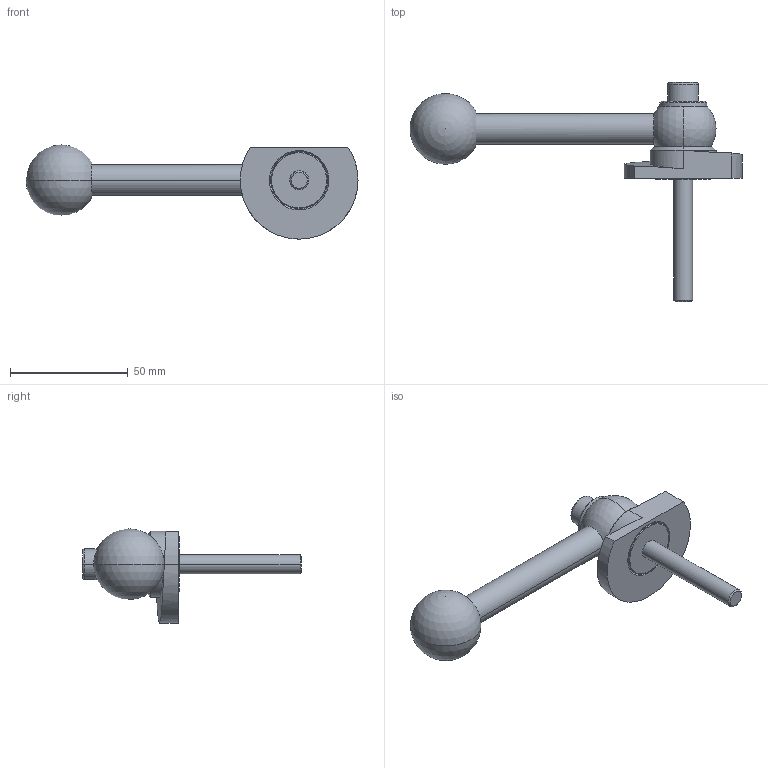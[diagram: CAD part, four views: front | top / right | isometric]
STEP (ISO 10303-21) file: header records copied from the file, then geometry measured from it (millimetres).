
FILE_DESCRIPTION (( 'STEP AP214' ), '1' );
FILE_NAME ('918.1-50-GVS-L-52.step', '2024-05-15T13:01:37', ( '' ), ( '' ), 'SwSTEP 2.0', 'SolidWorks 2022', '' );
FILE_SCHEMA (( 'AUTOMOTIVE_DESIGN' ));
Length unit declared in the file: millimetre
Products named in the file (1): 918.1-50-GVS-L-52
Bounding box: 141 x 93 x 40 mm (x, y, z)
Volume: 53598.6 mm3; surface area: 16651.1 mm2
Topology: 1 solids, 1 shells, 62 faces, 140 edges, 88 vertices
Faces by surface type: plane 20, cylinder 19, cone 14, sphere 4, bspline 3, torus 2
Entity records: 2001 total; most frequent: CARTESIAN_POINT 613, DIRECTION 305, ORIENTED_EDGE 260, EDGE_CURVE 130, AXIS2_PLACEMENT_3D 125, VERTEX_POINT 82, EDGE_LOOP 74, CIRCLE 65
